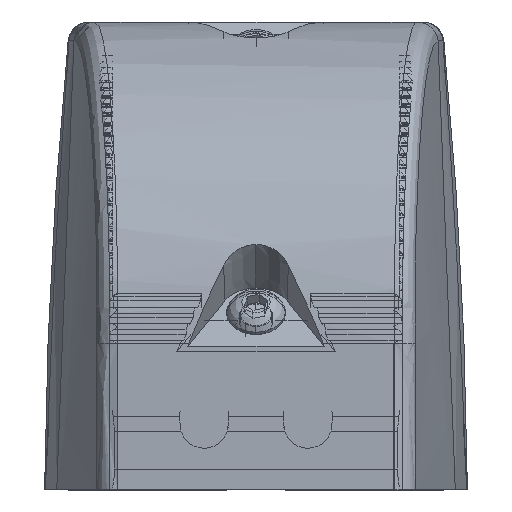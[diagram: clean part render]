
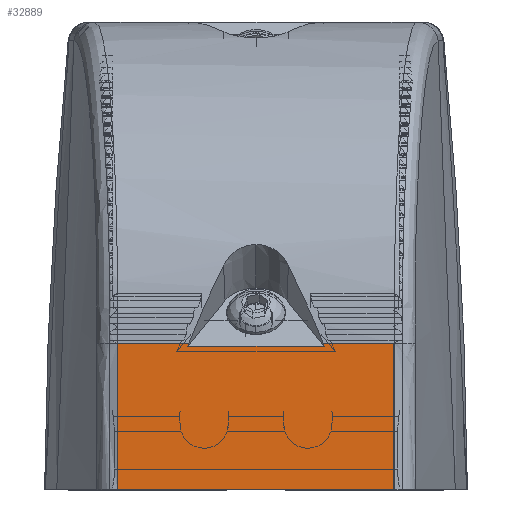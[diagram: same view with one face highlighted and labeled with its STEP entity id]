
A CAD part, left-side view. The second image highlights one B-rep face of the part: STEP entity #32889.
In plain terms, the highlighted planar face has unit normal (-1, 0, 0).
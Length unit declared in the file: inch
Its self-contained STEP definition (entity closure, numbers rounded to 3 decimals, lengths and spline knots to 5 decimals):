
#1914 = CARTESIAN_POINT ( 'NONE',  ( -1.99958, -0.86351, 0.604 ) ) ;
#2205 = LINE ( 'NONE', #72885, #21615 ) ;
#3409 = EDGE_CURVE ( 'NONE', #62928, #18355, #112331, .T. ) ;
#5370 = DIRECTION ( 'NONE',  ( 0., -1., 0. ) ) ;
#7049 = DIRECTION ( 'NONE',  ( 0., -1., 0. ) ) ;
#14501 = VECTOR ( 'NONE', #35757, 39.37008 ) ;
#15678 = VERTEX_POINT ( 'NONE', #111288 ) ;
#16074 = LINE ( 'NONE', #26140, #14501 ) ;
#17352 = ORIENTED_EDGE ( 'NONE', *, *, #60535, .T. ) ;
#18355 = VERTEX_POINT ( 'NONE', #64588 ) ;
#19707 = EDGE_CURVE ( 'NONE', #79927, #95609, #59831, .T. ) ;
#21615 = VECTOR ( 'NONE', #5370, 39.37008 ) ;
#22660 = PLANE ( 'NONE',  #33591 ) ;
#26140 = CARTESIAN_POINT ( 'NONE',  ( -1.99958, 0.56281, 0.53675 ) ) ;
#27422 = EDGE_CURVE ( 'NONE', #109848, #76914, #64091, .T. ) ;
#29190 = EDGE_CURVE ( 'NONE', #79927, #48887, #54508, .T. ) ;
#30733 = CARTESIAN_POINT ( 'NONE',  ( -1.99958, -0.85932, 0.906 ) ) ;
#32652 = ORIENTED_EDGE ( 'NONE', *, *, #92656, .F. ) ;
#32889 = ADVANCED_FACE ( 'NONE', ( #116693 ), #22660, .T. ) ;
#33591 = AXIS2_PLACEMENT_3D ( 'NONE', #79279, #117591, #109206 ) ;
#34494 = VECTOR ( 'NONE', #63344, 39.37008 ) ;
#35757 = DIRECTION ( 'NONE',  ( 0., 0.367, -0.93 ) ) ;
#36311 = EDGE_CURVE ( 'NONE', #62928, #15678, #101161, .T. ) ;
#40956 = VECTOR ( 'NONE', #112983, 39.37008 ) ;
#42855 = DIRECTION ( 'NONE',  ( 0., 0.367, 0.93 ) ) ;
#43155 = CARTESIAN_POINT ( 'NONE',  ( -1.99958, 0.85887, 0. ) ) ;
#43351 = EDGE_LOOP ( 'NONE', ( #17352, #47383, #97422, #89727, #86018, #32652, #118559, #65298 ) ) ;
#46722 = CARTESIAN_POINT ( 'NONE',  ( -1.99958, 1.5, 0. ) ) ;
#47383 = ORIENTED_EDGE ( 'NONE', *, *, #27422, .T. ) ;
#48887 = VERTEX_POINT ( 'NONE', #43155 ) ;
#54508 = B_SPLINE_CURVE_WITH_KNOTS ( 'NONE', 3,
 ( #63387, #83299, #82462, #93276 ),
 .UNSPECIFIED., .F., .F.,
 ( 4, 4 ),
 ( 0., 0.02301 ),
 .UNSPECIFIED. ) ;
#58028 = CARTESIAN_POINT ( 'NONE',  ( -1.99958, -0.85932, 0.906 ) ) ;
#59058 = CARTESIAN_POINT ( 'NONE',  ( -1.99958, -0.86336, 0.302 ) ) ;
#59831 = LINE ( 'NONE', #120795, #34494 ) ;
#60535 = EDGE_CURVE ( 'NONE', #48887, #109848, #86021, .T. ) ;
#62928 = VERTEX_POINT ( 'NONE', #113855 ) ;
#63344 = DIRECTION ( 'NONE',  ( 0., -1., 0. ) ) ;
#63387 = CARTESIAN_POINT ( 'NONE',  ( -1.99958, 0.85932, 0.906 ) ) ;
#64091 = B_SPLINE_CURVE_WITH_KNOTS ( 'NONE', 3,
 ( #77309, #59058, #1914, #30733 ),
 .UNSPECIFIED., .F., .F.,
 ( 4, 4 ),
 ( 0., 0.02301 ),
 .UNSPECIFIED. ) ;
#64588 = CARTESIAN_POINT ( 'NONE',  ( -1.99958, 0.42312, 0.8913 ) ) ;
#64762 = CARTESIAN_POINT ( 'NONE',  ( -1.99958, 0.41733, 0.906 ) ) ;
#65298 = ORIENTED_EDGE ( 'NONE', *, *, #29190, .T. ) ;
#72885 = CARTESIAN_POINT ( 'NONE',  ( -1.99958, 1.5, 0.906 ) ) ;
#74704 = CARTESIAN_POINT ( 'NONE',  ( -1.99958, 1.5, 0.8913 ) ) ;
#76914 = VERTEX_POINT ( 'NONE', #58028 ) ;
#77309 = CARTESIAN_POINT ( 'NONE',  ( -1.99958, -0.85887, 0. ) ) ;
#79279 = CARTESIAN_POINT ( 'NONE',  ( -1.99958, 1.5, 0.906 ) ) ;
#79927 = VERTEX_POINT ( 'NONE', #91286 ) ;
#82462 = CARTESIAN_POINT ( 'NONE',  ( -1.99958, 0.86336, 0.302 ) ) ;
#83299 = CARTESIAN_POINT ( 'NONE',  ( -1.99958, 0.86351, 0.604 ) ) ;
#83348 = EDGE_CURVE ( 'NONE', #15678, #76914, #2205, .T. ) ;
#86018 = ORIENTED_EDGE ( 'NONE', *, *, #3409, .T. ) ;
#86021 = LINE ( 'NONE', #46722, #94932 ) ;
#87129 = CARTESIAN_POINT ( 'NONE',  ( -1.99958, -0.85887, 0. ) ) ;
#89301 = VECTOR ( 'NONE', #42855, 39.37008 ) ;
#89727 = ORIENTED_EDGE ( 'NONE', *, *, #36311, .F. ) ;
#91286 = CARTESIAN_POINT ( 'NONE',  ( -1.99958, 0.85932, 0.906 ) ) ;
#92656 = EDGE_CURVE ( 'NONE', #95609, #18355, #16074, .T. ) ;
#93276 = CARTESIAN_POINT ( 'NONE',  ( -1.99958, 0.85887, 0. ) ) ;
#94932 = VECTOR ( 'NONE', #7049, 39.37008 ) ;
#95609 = VERTEX_POINT ( 'NONE', #64762 ) ;
#97422 = ORIENTED_EDGE ( 'NONE', *, *, #83348, .F. ) ;
#101161 = LINE ( 'NONE', #109770, #89301 ) ;
#109206 = DIRECTION ( 'NONE',  ( 0., 0., 1. ) ) ;
#109770 = CARTESIAN_POINT ( 'NONE',  ( -1.99958, -0.15969, 1.55991 ) ) ;
#109848 = VERTEX_POINT ( 'NONE', #87129 ) ;
#111288 = CARTESIAN_POINT ( 'NONE',  ( -1.99958, -0.41733, 0.906 ) ) ;
#112331 = LINE ( 'NONE', #74704, #40956 ) ;
#112983 = DIRECTION ( 'NONE',  ( 0., 1., 0. ) ) ;
#113855 = CARTESIAN_POINT ( 'NONE',  ( -1.99958, -0.42312, 0.8913 ) ) ;
#116693 = FACE_OUTER_BOUND ( 'NONE', #43351, .T. ) ;
#117591 = DIRECTION ( 'NONE',  ( -1., 0., 0. ) ) ;
#118559 = ORIENTED_EDGE ( 'NONE', *, *, #19707, .F. ) ;
#120795 = CARTESIAN_POINT ( 'NONE',  ( -1.99958, 1.5, 0.906 ) ) ;
